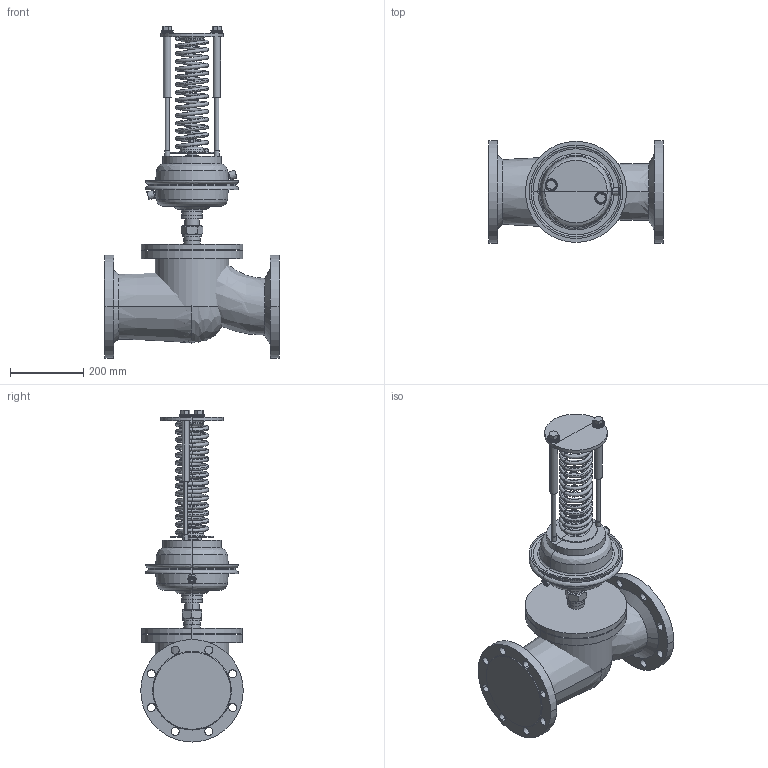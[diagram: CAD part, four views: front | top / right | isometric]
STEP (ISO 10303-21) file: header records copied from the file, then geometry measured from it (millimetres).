
FILE_DESCRIPTION(/* description */ (''),/* implementation_level */ '2;1');
FILE_NAME(/* name */ 'ETM_Регулятордавления_УРРД_НЗ_РД_DN150',/* time_stamp */ '2026-04-18T14:55:48+03:00',/* author */ (''),/* organization */ (''),/* preprocessor_version */ 'ST-DEVELOPER v20',/* originating_system */ '',/* authorisation */ '');
FILE_SCHEMA (('AP242_MANAGED_MODEL_BASED_3D_ENGINEERING_MIM_LF { 1 0 10303 442 1 1 4 }'));
Length unit declared in the file: millimetre
Products named in the file (13): TopLevelAssembly; Выдавливание; Переход; Выдавливание_
1; Переход_1; Переход_2; Переход_3; Объемная геометрия 
присоединена; Выдавливание_
2; Выдавливание_
3; Объемная геометрия 
присоединена_1; Выдавливание_
4; Пружина желтая
Assembly tree (12 placements, depth 2):
  TopLevelAssembly
    Выдавливание
    Переход
    Выдавливание_
1
    Переход_1
    Переход_2
    Переход_3
    Объемная геометрия 
присоединена
    Выдавливание_
2
    Выдавливание_
3
    Объемная геометрия 
присоединена_1
    Выдавливание_
4
    Пружина желтая
Bounding box: 480 x 280 x 906.46 mm (x, y, z)
Volume: 27654498.5 mm3; surface area: 1856363.6 mm2
Topology: 33 solids, 33 shells, 522 faces, 1078 edges, 560 vertices
Faces by surface type: bspline 191, plane 183, cylinder 138, cone 10
Entity records: 17101 total; most frequent: CARTESIAN_POINT 5903, DIRECTION 2372, ORIENTED_EDGE 2064, EDGE_CURVE 1032, AXIS2_PLACEMENT_3D 1008, CIRCLE 651, VERTEX_POINT 560, EDGE_LOOP 558
